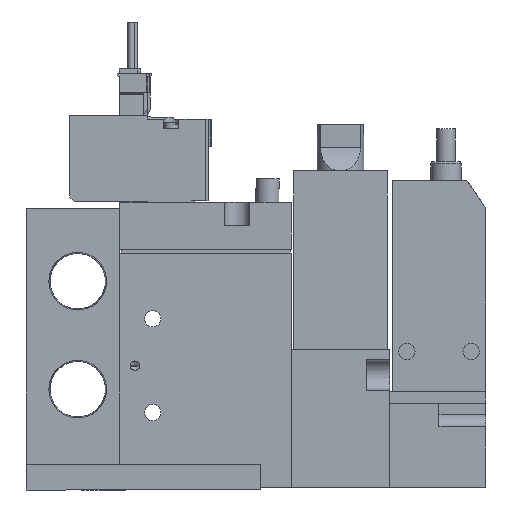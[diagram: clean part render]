
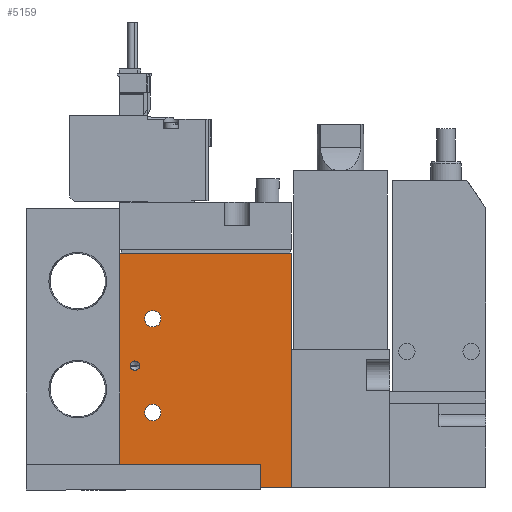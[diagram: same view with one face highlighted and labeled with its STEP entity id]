
A CAD part, left-side view. The second image highlights one B-rep face of the part: STEP entity #5159.
In plain terms, the highlighted planar face has unit normal (-1, 0, 0) as drawn and (1, 0, 0) by its records, which use the part's own axes.
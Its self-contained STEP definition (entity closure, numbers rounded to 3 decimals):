
#5159=ADVANCED_FACE('',(#7945,#7946,#7947,#7948),#7949,.F.);
#7945=FACE_BOUND('',#14222,.T.);
#7946=FACE_BOUND('',#14223,.T.);
#7947=FACE_BOUND('',#14224,.T.);
#7948=FACE_OUTER_BOUND('',#14225,.T.);
#7949=PLANE('',#14226);
#14222=EDGE_LOOP('',(#20597));
#14223=EDGE_LOOP('',(#20598));
#14224=EDGE_LOOP('',(#20599));
#14225=EDGE_LOOP('',(#20600,#20601,#20602,#20603));
#14226=AXIS2_PLACEMENT_3D('',#20604,#20605,#20606);
#20597=ORIENTED_EDGE('',*,*,#42280,.F.);
#20598=ORIENTED_EDGE('',*,*,#42281,.T.);
#20599=ORIENTED_EDGE('',*,*,#42282,.T.);
#20600=ORIENTED_EDGE('',*,*,#42283,.T.);
#20601=ORIENTED_EDGE('',*,*,#42284,.F.);
#20602=ORIENTED_EDGE('',*,*,#42285,.F.);
#20603=ORIENTED_EDGE('',*,*,#42286,.T.);
#20604=CARTESIAN_POINT('',(8.5,-19.444,50.0));
#20605=DIRECTION('',(-1.0,0.0,0.0));
#20606=DIRECTION('',(0.0,0.0,1.0));
#42280=EDGE_CURVE('',#49073,#49073,#49074,.T.);
#42281=EDGE_CURVE('',#49075,#49075,#49076,.T.);
#42282=EDGE_CURVE('',#49077,#49077,#49078,.T.);
#42283=EDGE_CURVE('',#49079,#49080,#49081,.T.);
#42284=EDGE_CURVE('',#49082,#49080,#49083,.T.);
#42285=EDGE_CURVE('',#49084,#49082,#49085,.T.);
#42286=EDGE_CURVE('',#49084,#49079,#49086,.T.);
#49073=VERTEX_POINT('',#60545);
#49074=CIRCLE('',#60546,1.0);
#49075=VERTEX_POINT('',#60547);
#49076=CIRCLE('',#60548,1.75);
#49077=VERTEX_POINT('',#60549);
#49078=CIRCLE('',#60550,1.75);
#49079=VERTEX_POINT('',#60551);
#49080=VERTEX_POINT('',#60552);
#49081=LINE('',#60553,#60554);
#49082=VERTEX_POINT('',#60555);
#49083=LINE('',#60556,#60557);
#49084=VERTEX_POINT('',#60558);
#49085=LINE('',#60559,#60560);
#49086=LINE('',#60561,#60562);
#60545=CARTESIAN_POINT('',(8.5,-17.244,26.0));
#60546=AXIS2_PLACEMENT_3D('',#77808,#77809,#77810);
#60547=CARTESIAN_POINT('',(8.5,-10.694,36.0));
#60548=AXIS2_PLACEMENT_3D('',#77811,#77812,#77813);
#60549=CARTESIAN_POINT('',(8.5,-10.694,16.0));
#60550=AXIS2_PLACEMENT_3D('',#77814,#77815,#77816);
#60551=CARTESIAN_POINT('',(8.5,-19.444,0.0));
#60552=CARTESIAN_POINT('',(8.5,17.056,0.0));
#60553=CARTESIAN_POINT('',(8.5,-19.444,0.0));
#60554=VECTOR('',#77817,1.0);
#60555=CARTESIAN_POINT('',(8.5,17.056,50.0));
#60556=CARTESIAN_POINT('',(8.5,17.056,50.0));
#60557=VECTOR('',#77818,1.0);
#60558=CARTESIAN_POINT('',(8.5,-19.444,50.0));
#60559=CARTESIAN_POINT('',(8.5,-19.444,50.0));
#60560=VECTOR('',#77819,1.0);
#60561=CARTESIAN_POINT('',(8.5,-19.444,50.0));
#60562=VECTOR('',#77820,1.0);
#77808=CARTESIAN_POINT('',(8.5,-16.244,26.0));
#77809=DIRECTION('',(1.0,0.,0.0));
#77810=DIRECTION('',(0.,-1.0,0.0));
#77811=CARTESIAN_POINT('',(8.5,-12.444,36.0));
#77812=DIRECTION('',(-1.0,0.0,0.0));
#77813=DIRECTION('',(0.0,1.0,0.0));
#77814=CARTESIAN_POINT('',(8.5,-12.444,16.0));
#77815=DIRECTION('',(-1.0,0.0,0.0));
#77816=DIRECTION('',(0.0,1.0,0.0));
#77817=DIRECTION('',(0.0,1.0,0.0));
#77818=DIRECTION('',(0.0,0.0,-1.0));
#77819=DIRECTION('',(0.0,1.0,0.0));
#77820=DIRECTION('',(0.0,0.0,-1.0));
